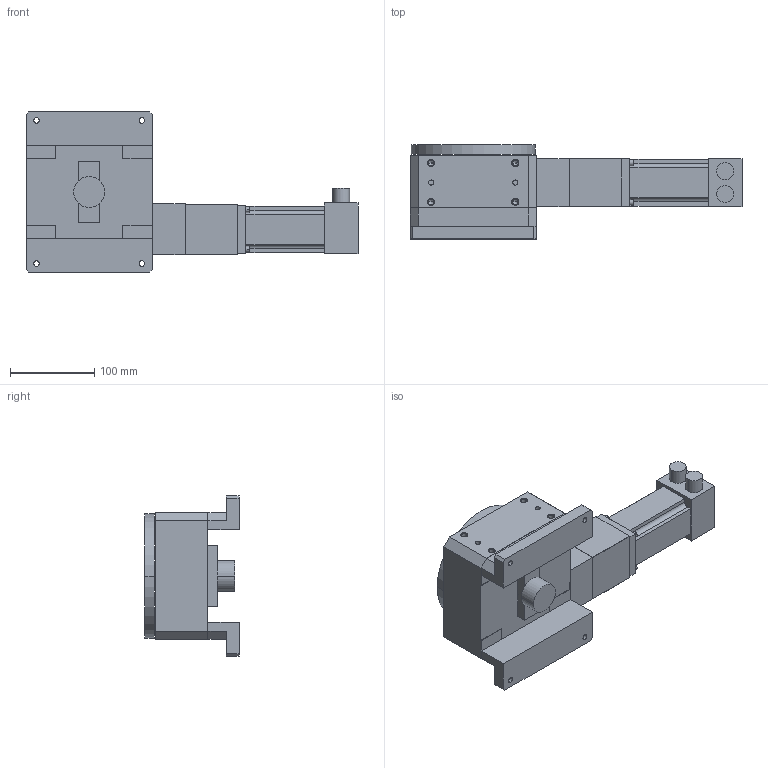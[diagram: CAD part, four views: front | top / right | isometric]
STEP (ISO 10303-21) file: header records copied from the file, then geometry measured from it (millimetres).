
FILE_DESCRIPTION((''),'2;1');
FILE_NAME('R150M7MP2E1_ASM','2009-07-02T',('FK20128'),(''),'PRO/ENGINEER BY PARAMETRIC TECHNOLOGY CORPORATION, 2006200','PRO/ENGINEER BY PARAMETRIC TECHNOLOGY CORPORATION, 2006200','');
FILE_SCHEMA(('CONFIG_CONTROL_DESIGN'));
Length unit declared in the file: millimetre
Products named in the file (8): R150M; R150M-M23; RXXXM-BE233; R150M-ENCODER-BRKT; R150M-ENCODER-STANDOFF; RXXXM-ENCODER; R150M-E1_ASM; R150M7MP2E1_ASM
Assembly tree (8 placements, depth 3):
  R150M7MP2E1_ASM
    R150M
    R150M-M23
    RXXXM-BE233
    R150M-E1_ASM
      R150M-ENCODER-BRKT
      R150M-ENCODER-STANDOFF  x2
      RXXXM-ENCODER
Bounding box: 394.12 x 111.83 x 190 mm (x, y, z)
Volume: 2584271.4 mm3; surface area: 282879.1 mm2
Topology: 8 solids, 28 shells, 343 faces, 827 edges, 548 vertices
Faces by surface type: cylinder 174, plane 143, cone 26
Entity records: 9487 total; most frequent: DIRECTION 1789, CARTESIAN_POINT 1580, ORIENTED_EDGE 1410, EDGE_CURVE 741, AXIS2_PLACEMENT_3D 709, VERTEX_POINT 500, EDGE_LOOP 411, VECTOR 371
